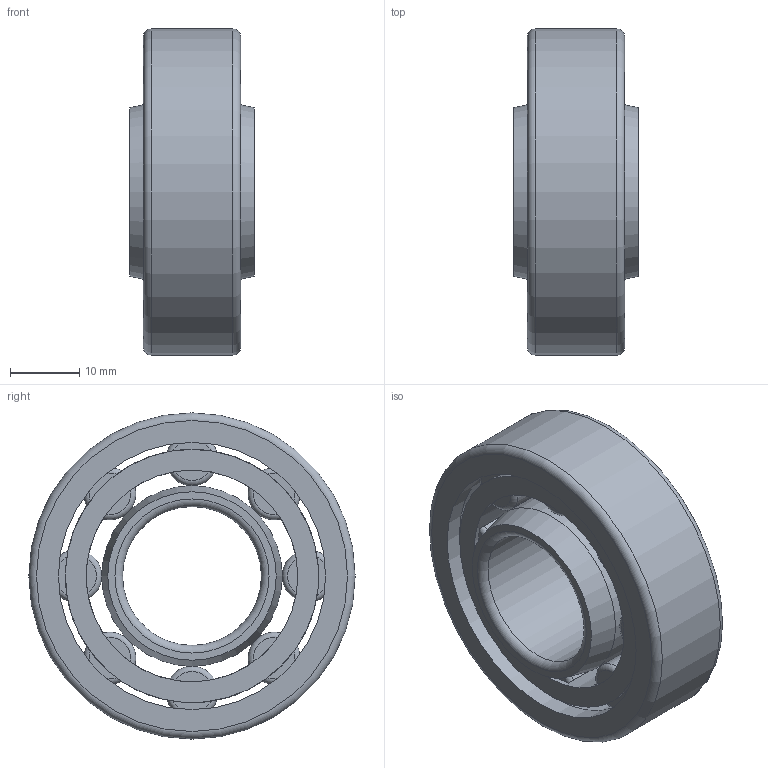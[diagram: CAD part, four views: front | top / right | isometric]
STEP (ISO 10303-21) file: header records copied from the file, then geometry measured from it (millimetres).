
FILE_DESCRIPTION(/* description */ (''),/* implementation_level */ '2;1');
FILE_NAME(/* name */ 'G:\NUB--\NUB--\NUB204EDM.stp',/* time_stamp */ '2016-10-10T21:12:07+02:00',/* author */ ('MARTIN'),/* organization */ (''),/* preprocessor_version */ 'ST-DEVELOPER v15.6',/* originating_system */ 'Autodesk Inventor 2015',/* authorisation */ '');
FILE_SCHEMA (('AUTOMOTIVE_DESIGN { 1 0 10303 214 3 1 1 }'));
Length unit declared in the file: millimetre
Products named in the file (7): NUB204EDM-02; NUB204EDM-01; NUB204EDM-roller; NUB204EDM-EDMcage01; NUB204EDM-EDMcage02; NUB204EDM-EDMcage; NUB204EDM
Bounding box: 18 x 47 x 47 mm (x, y, z)
Volume: 15040.8 mm3; surface area: 13295.7 mm2
Topology: 12 solids, 12 shells, 161 faces, 338 edges, 218 vertices
Faces by surface type: plane 89, cylinder 50, torus 20, cone 2
Full cylindrical faces by diameter (mm): 0.75 x16, 7.5 x8, 20 x1, 26 x1, 30.5 x2, 36.5 x2, 38.5 x2, 41 x1, 47 x1
Entity records: 3652 total; most frequent: DIRECTION 668, CARTESIAN_POINT 586, ORIENTED_EDGE 504, AXIS2_PLACEMENT_3D 270, EDGE_CURVE 252, EDGE_LOOP 202, VERTEX_POINT 188, LINE 128
